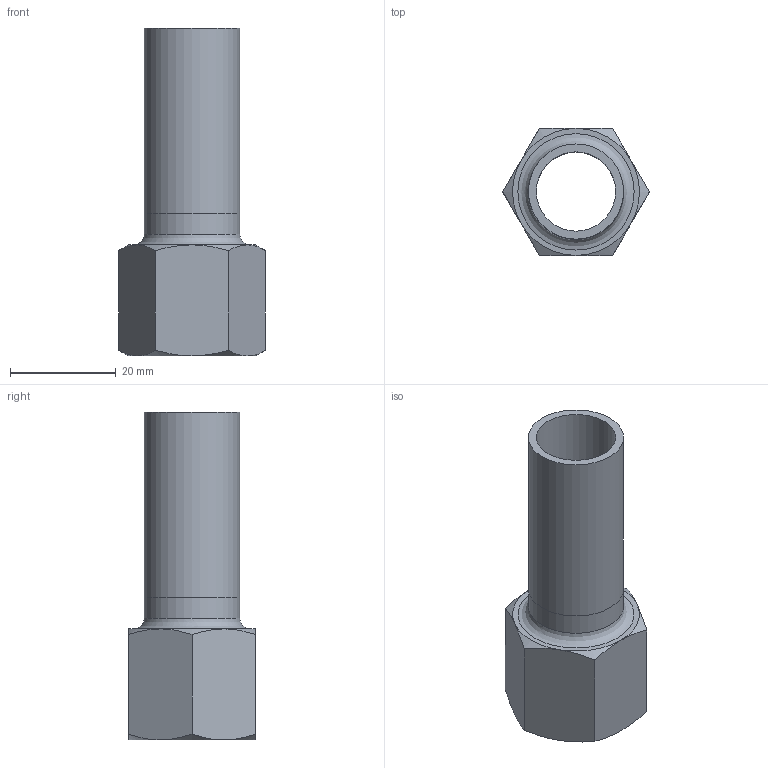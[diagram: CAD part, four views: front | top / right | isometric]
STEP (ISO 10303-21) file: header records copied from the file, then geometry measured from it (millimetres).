
FILE_DESCRIPTION((''),'2;1');
FILE_NAME('G:\Nirosan-Schmiedefeld\Technics\CAD\001 Serie 9.000\018\69246G1812H(1).stp','2017-06-20T15:03:42',('herberg'),(''),'Autodesk Inventor 2009','Autodesk Inventor 2009','');
FILE_SCHEMA(('AUTOMOTIVE_DESIGN { 1 0 10303 214 1 1 1 1 }'));
Length unit declared in the file: millimetre
Products named in the file (3): 69246G1812H(1); 69FXE18P(0); IG1812(1)
Assembly tree (2 placements, depth 2):
  69246G1812H(1)
    69FXE18P(0)
    IG1812(1)
Bounding box: 27.71 x 24 x 62 mm (x, y, z)
Volume: 8217.5 mm3; surface area: 7864.3 mm2
Topology: 2 solids, 2 shells, 31 faces, 62 edges, 37 vertices
Faces by surface type: cone 13, plane 11, bspline 4, cylinder 3
Full cylindrical faces by diameter (mm): 15 x1, 18 x2
Entity records: 884 total; most frequent: CARTESIAN_POINT 255, DIRECTION 118, ORIENTED_EDGE 108, AXIS2_PLACEMENT_3D 56, EDGE_CURVE 54, EDGE_LOOP 44, VERTEX_POINT 36, FACE_OUTER_BOUND 31
